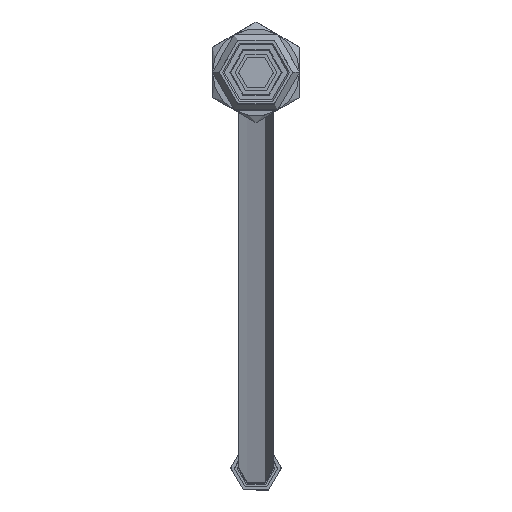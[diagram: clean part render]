
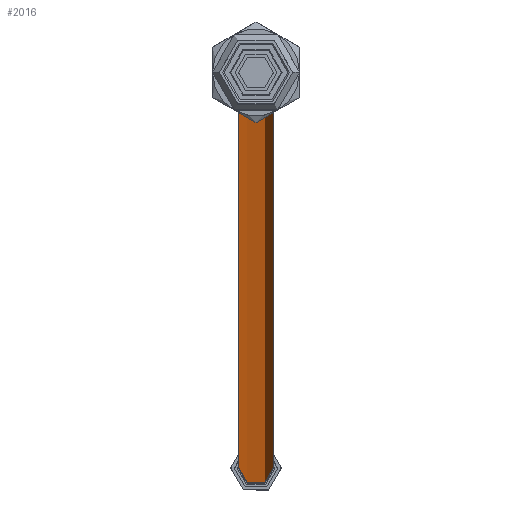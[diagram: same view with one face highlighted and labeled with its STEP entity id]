
A CAD part, top view. The second image highlights one B-rep face of the part: STEP entity #2016.
In plain terms, the highlighted cylindrical face has radius 1.27 mm (diameter 2.54 mm), a partial arc.
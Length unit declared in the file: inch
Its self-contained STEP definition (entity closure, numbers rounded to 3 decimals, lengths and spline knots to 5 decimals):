
#387 = VECTOR ( 'NONE', #2971, 39.37008 ) ;
#388 = AXIS2_PLACEMENT_3D ( 'NONE', #2405, #1494, #5038 ) ;
#436 = EDGE_CURVE ( 'NONE', #2270, #579, #2049, .T. ) ;
#579 = VERTEX_POINT ( 'NONE', #1783 ) ;
#721 = DIRECTION ( 'NONE',  ( 0., 0., -1. ) ) ;
#761 = CARTESIAN_POINT ( 'NONE',  ( 0., 0., -0.49695 ) ) ;
#962 = LINE ( 'NONE', #5322, #387 ) ;
#1049 = CYLINDRICAL_SURFACE ( 'NONE', #388, 0.05 ) ;
#1372 = ORIENTED_EDGE ( 'NONE', *, *, #436, .T. ) ;
#1494 = DIRECTION ( 'NONE',  ( 0., 0., 1. ) ) ;
#1567 = EDGE_CURVE ( 'NONE', #579, #3217, #3960, .T. ) ;
#1664 = ORIENTED_EDGE ( 'NONE', *, *, #3471, .F. ) ;
#1737 = AXIS2_PLACEMENT_3D ( 'NONE', #1748, #4828, #4405 ) ;
#1748 = CARTESIAN_POINT ( 'NONE',  ( 0., 0., -649.58617 ) ) ;
#1783 = CARTESIAN_POINT ( 'NONE',  ( 0.05, 0., -649.58617 ) ) ;
#1841 = VECTOR ( 'NONE', #5252, 39.37008 ) ;
#2016 = ADVANCED_FACE ( 'NONE', ( #4991 ), #1049, .T. ) ;
#2047 = EDGE_LOOP ( 'NONE', ( #1664, #1372, #4952, #3516 ) ) ;
#2049 = CIRCLE ( 'NONE', #1737, 0.05 ) ;
#2270 = VERTEX_POINT ( 'NONE', #4708 ) ;
#2329 = EDGE_CURVE ( 'NONE', #3217, #3077, #5653, .T. ) ;
#2405 = CARTESIAN_POINT ( 'NONE',  ( 0., 0., 0. ) ) ;
#2971 = DIRECTION ( 'NONE',  ( 0., 0., 1. ) ) ;
#3077 = VERTEX_POINT ( 'NONE', #4051 ) ;
#3217 = VERTEX_POINT ( 'NONE', #3750 ) ;
#3471 = EDGE_CURVE ( 'NONE', #2270, #3077, #962, .T. ) ;
#3516 = ORIENTED_EDGE ( 'NONE', *, *, #2329, .T. ) ;
#3750 = CARTESIAN_POINT ( 'NONE',  ( 0.05, 0., -0.49695 ) ) ;
#3960 = LINE ( 'NONE', #4312, #1841 ) ;
#4051 = CARTESIAN_POINT ( 'NONE',  ( -0.05, 0., -0.49695 ) ) ;
#4312 = CARTESIAN_POINT ( 'NONE',  ( 0.05, 0., 0. ) ) ;
#4405 = DIRECTION ( 'NONE',  ( 1., 0., 0. ) ) ;
#4449 = AXIS2_PLACEMENT_3D ( 'NONE', #761, #721, #4843 ) ;
#4708 = CARTESIAN_POINT ( 'NONE',  ( -0.05, 0., -649.58617 ) ) ;
#4828 = DIRECTION ( 'NONE',  ( 0., 0., 1. ) ) ;
#4843 = DIRECTION ( 'NONE',  ( -1., 0., 0. ) ) ;
#4952 = ORIENTED_EDGE ( 'NONE', *, *, #1567, .T. ) ;
#4991 = FACE_OUTER_BOUND ( 'NONE', #2047, .T. ) ;
#5038 = DIRECTION ( 'NONE',  ( 1., 0., 0. ) ) ;
#5252 = DIRECTION ( 'NONE',  ( 0., 0., 1. ) ) ;
#5322 = CARTESIAN_POINT ( 'NONE',  ( -0.05, 0., 0. ) ) ;
#5653 = CIRCLE ( 'NONE', #4449, 0.05 ) ;
